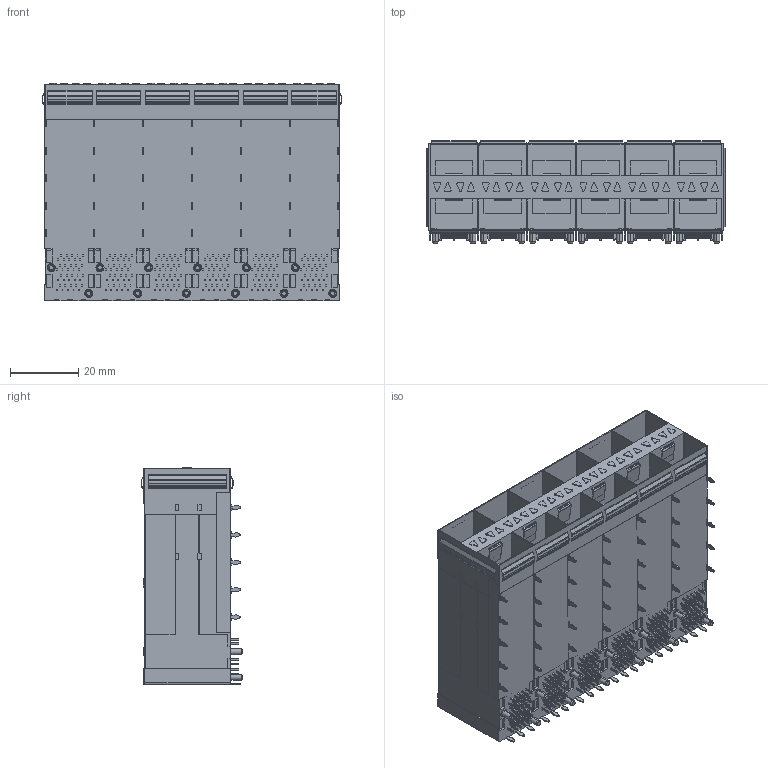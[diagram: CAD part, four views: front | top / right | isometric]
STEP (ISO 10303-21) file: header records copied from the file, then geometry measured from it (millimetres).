
FILE_DESCRIPTION (( 'STEP AP203' ), '1' );
FILE_NAME ('22601_SFP+ 2X6 囀俋絳嫖翐.STEP', '2024-06-05T00:35:34', ( '' ), ( '' ), 'SwSTEP 2.0', 'SolidWorks 2018', '' );
FILE_SCHEMA (( 'CONFIG_CONTROL_DESIGN' ));
Length unit declared in the file: millimetre
Products named in the file (1): 22601_SFP+ 2X6 囀俋絳嫖翐
Bounding box: 87.56 x 29.78 x 63.5 mm (x, y, z)
Volume: 70108.8 mm3; surface area: 50071.1 mm2
Topology: 1 solids, 1 shells, 3271 faces, 9033 edges, 6122 vertices
Faces by surface type: plane 2401, cylinder 820, cone 48, sphere 2
Entity records: 104222 total; most frequent: CARTESIAN_POINT 18425, ORIENTED_EDGE 18062, DIRECTION 17267, EDGE_CURVE 9031, LINE 7339, VECTOR 7339, VERTEX_POINT 6122, AXIS2_PLACEMENT_3D 4964
